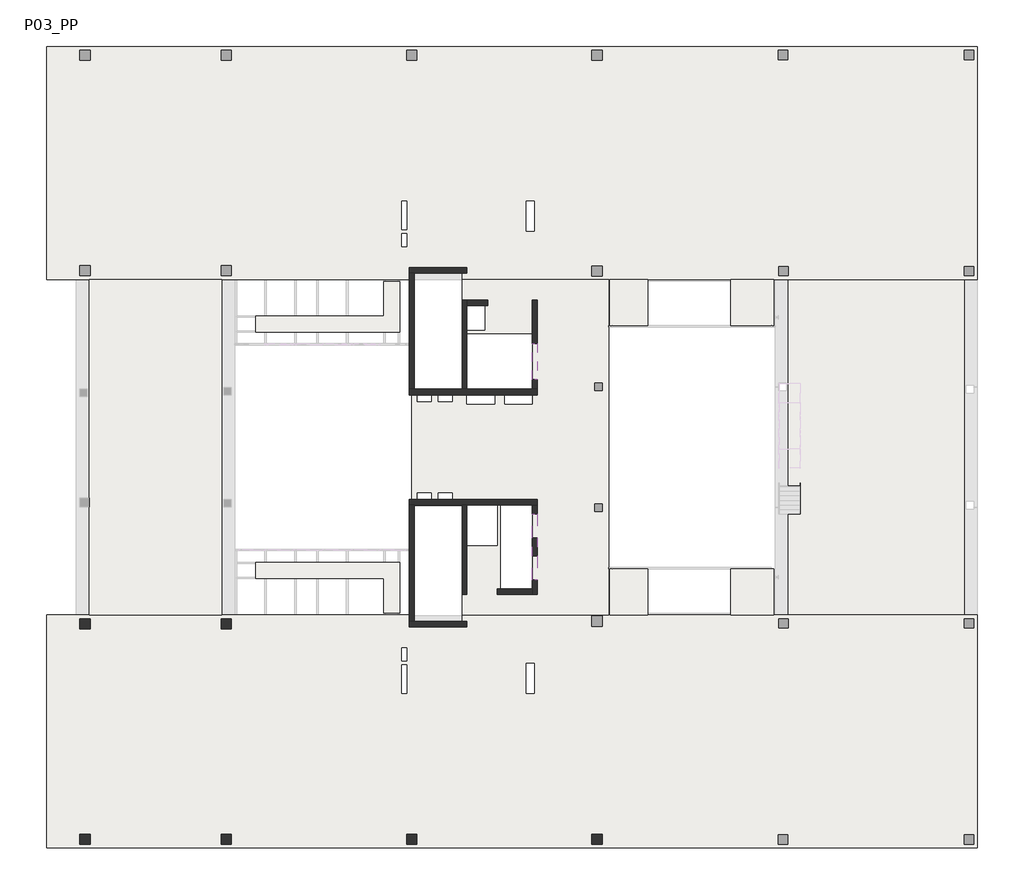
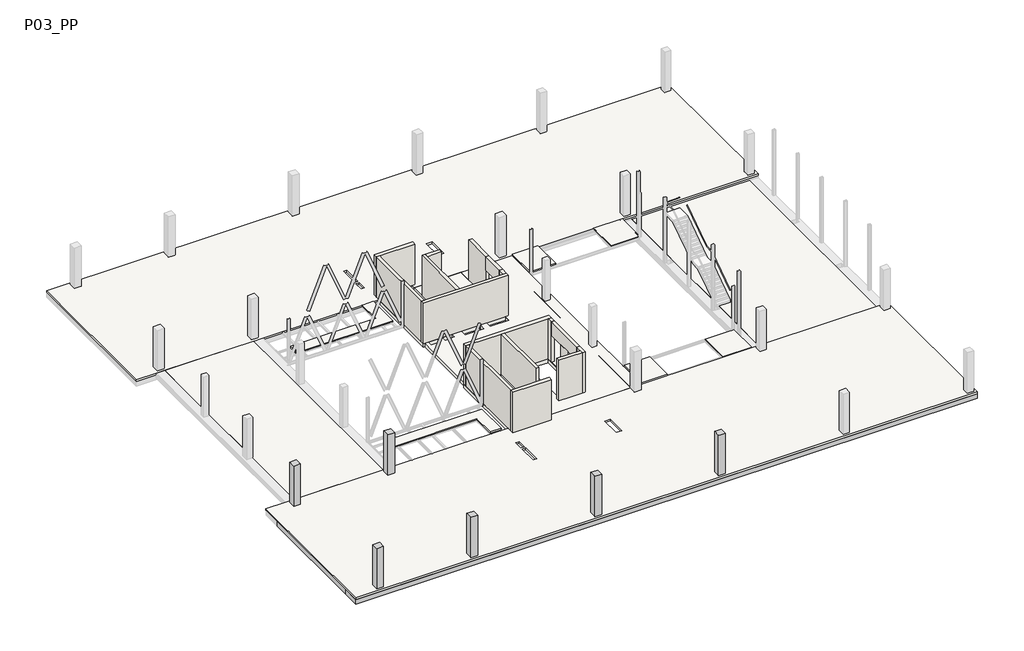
# One storey, part 1 of 4: 17 walls, 12 beams, 9 slabs, 6 columns.
"""IFC4 building model written with IfcOpenShell, lengths in millimetres."""

from ifc_helpers import new_model, si_unit, frame, origin, place, context, project, spatial, polyline, outline, extrude, faceted_brep, element, save

model = new_model("IFC4")

# Units and contexts
model_context = context("Model", 3, world=origin())
ifc_project = project(units=[si_unit("LENGTHUNIT", "METRE", prefix="MILLI")], contexts=[model_context])

# Site, building, storey
site = spatial("IfcSite", under=ifc_project)
building = spatial("IfcBuilding", under=site)
storey = spatial("IfcBuildingStorey", under=building, Name="P03_PP", Elevation=18660.0)

# Beams
placement = place(None, origin())
element("IfcBeam", 1, ObjectType="M_Concrete-Rectangular Beam : 1500 x 550mm", at=placement, inside=storey, context=model_context, shape_type="Brep", body=[
    faceted_brep([(-33190.2931093, -17110.5871866, 18110.0), (16958.7687297, -17110.5871866, 18110.0), (16958.7687297, -17110.5871866, 18510.0), (-33190.2931093, -17110.5871866, 18510.0), (16958.7687297, -15610.5871866, 18110.0), (-33190.2931093, -15610.5871866, 18110.0), (-32490.2931093, -15610.5871866, 18110.0), (-31216.2708024, -15610.5871866, 18110.0), (-30816.2708024, -15610.5871866, 18110.0), (-29549.6041367, -15610.5871866, 18110.0), (-29149.6041367, -15610.5871866, 18110.0), (-27882.9374731, -15610.5871866, 18110.0), (-27482.9374731, -15610.5871866, 18110.0), (-26216.2708089, -15610.5871866, 18110.0), (-25816.2708089, -15610.5871866, 18110.0), (-24549.6041453, -15610.5871866, 18110.0), (-24149.6041453, -15610.5871866, 18110.0), (-22882.9374805, -15610.5871866, 18110.0), (-22482.9374805, -15610.5871866, 18110.0), (-21216.2708168, -15610.5871866, 18110.0), (-20816.2708168, -15610.5871866, 18110.0), (-19549.6041539, -15610.5871866, 18110.0), (-19149.6041539, -15610.5871866, 18110.0), (-17882.9374898, -15610.5871866, 18110.0), (-17482.9374898, -15610.5871866, 18110.0), (-16216.2708252, -15610.5871866, 18110.0), (-15816.2708252, -15610.5871866, 18110.0), (-14549.604161, -15610.5871866, 18110.0), (-14149.604161, -15610.5871866, 18110.0), (-12882.9374977, -15610.5871866, 18110.0), (-12482.9374977, -15610.5871866, 18110.0), (-11216.2708336, -15610.5871866, 18110.0), (-10816.2708336, -15610.5871866, 18110.0), (-9549.6041702, -15610.5871866, 18110.0), (-9149.6041702, -15610.5871866, 18110.0), (-7882.9375051, -15610.5871866, 18110.0), (-7482.9375051, -15610.5871866, 18110.0), (-6216.2708415, -15610.5871866, 18110.0), (-5816.2708415, -15610.5871866, 18110.0), (-4549.6041777, -15610.5871866, 18110.0), (-4149.6041777, -15610.5871866, 18110.0), (-2882.9375136, -15610.5871866, 18110.0), (-2482.9375136, -15610.5871866, 18110.0), (-1216.2708502, -15610.5871866, 18110.0), (-816.2708502, -15610.5871866, 18110.0), (450.3958139, -15610.5871866, 18110.0), (850.3958139, -15610.5871866, 18110.0), (2117.0624776, -15610.5871866, 18110.0), (2517.0624776, -15610.5871866, 18110.0), (3783.7291418, -15610.5871866, 18110.0), (4183.7291418, -15610.5871866, 18110.0), (5450.3958055, -15610.5871866, 18110.0), (5850.3958055, -15610.5871866, 18110.0), (7117.0624701, -15610.5871866, 18110.0), (7517.0624701, -15610.5871866, 18110.0), (8783.7291339, -15610.5871866, 18110.0), (9183.7291339, -15610.5871866, 18110.0), (10450.3957976, -15610.5871866, 18110.0), (10850.3957976, -15610.5871866, 18110.0), (12117.0624618, -15610.5871866, 18110.0), (12517.0624618, -15610.5871866, 18110.0), (13783.7291255, -15610.5871866, 18110.0), (14183.7291255, -15610.5871866, 18110.0), (15458.7687297, -15610.5871866, 18110.0), (6734.6784228, -16910.586328, 18110.0), (6734.6784217, -16410.586328, 18110.0), (6234.6784217, -16410.5863291, 18110.0), (6234.6784228, -16910.5863291, 18110.0), (-3266.6336782, -16910.5863398, 18110.0), (-3266.6336781, -16360.5863398, 18110.0), (-3816.6336781, -16360.5863397, 18110.0), (-3816.6336782, -16910.5863397, 18110.0), (-13216.1844603, -16910.5866726, 18110.0), (-13216.1844595, -16310.5866726, 18110.0), (-13816.1844595, -16310.5866718, 18110.0), (-13816.1844603, -16910.5866718, 18110.0), (-23240.1750541, -16910.5860682, 18110.0), (-23240.175054, -16360.5860682, 18110.0), (-23790.175054, -16360.5860681, 18110.0), (-23790.1750541, -16910.5860681, 18110.0), (-30841.1764478, -16910.5868854, 18110.0), (-30841.1764478, -16360.5868854, 18110.0), (-31391.1764478, -16360.5868854, 18110.0), (-31391.1764478, -16910.5868854, 18110.0), (16758.7685931, -16910.5863174, 18110.0), (16758.7685932, -16410.5863174, 18110.0), (16258.7685932, -16410.5863173, 18110.0), (16258.7685931, -16910.5863173, 18110.0), (-33190.2931093, -15610.5871866, 18510.0), (-32490.2931093, -15610.5871866, 18510.0), (-31216.2708024, -15610.5871866, 18510.0), (-30816.2708024, -15610.5871866, 18510.0), (-29549.6041367, -15610.5871866, 18510.0), (-29149.6041367, -15610.5871866, 18510.0), (-27882.9374731, -15610.5871866, 18510.0), (-27482.9374731, -15610.5871866, 18510.0), (-26216.2708089, -15610.5871866, 18510.0), (-25816.2708089, -15610.5871866, 18510.0), (-24549.6041453, -15610.5871866, 18510.0), (-24149.6041453, -15610.5871866, 18510.0), (-22882.9374805, -15610.5871866, 18510.0), (-22482.9374805, -15610.5871866, 18510.0), (-21216.2708168, -15610.5871866, 18510.0), (-20816.2708168, -15610.5871866, 18510.0), (-19549.6041539, -15610.5871866, 18510.0), (-19149.6041539, -15610.5871866, 18510.0), (-17882.9374898, -15610.5871866, 18510.0), (-17482.9374898, -15610.5871866, 18510.0), (-16216.2708252, -15610.5871866, 18510.0), (-15816.2708252, -15610.5871866, 18510.0), (-14549.604161, -15610.5871866, 18510.0), (-14149.604161, -15610.5871866, 18510.0), (-12882.9374977, -15610.5871866, 18510.0), (-12482.9374977, -15610.5871866, 18510.0), (-11216.2708336, -15610.5871866, 18510.0), (-10816.2708336, -15610.5871866, 18510.0), (-9549.6041702, -15610.5871866, 18510.0), (-9149.6041702, -15610.5871866, 18510.0), (-7882.9375051, -15610.5871866, 18510.0), (-7482.9375051, -15610.5871866, 18510.0), (-6216.2708415, -15610.5871866, 18510.0), (-5816.2708415, -15610.5871866, 18510.0), (-4549.6041777, -15610.5871866, 18510.0), (-4149.6041777, -15610.5871866, 18510.0), (-2882.9375136, -15610.5871866, 18510.0), (-2482.9375136, -15610.5871866, 18510.0), (-1216.2708502, -15610.5871866, 18510.0), (-816.2708502, -15610.5871866, 18510.0), (450.3958139, -15610.5871866, 18510.0), (850.3958139, -15610.5871866, 18510.0), (2117.0624776, -15610.5871866, 18510.0), (2517.0624776, -15610.5871866, 18510.0), (3783.7291418, -15610.5871866, 18510.0), (4183.7291418, -15610.5871866, 18510.0), (5450.3958055, -15610.5871866, 18510.0), (5850.3958055, -15610.5871866, 18510.0), (7117.0624701, -15610.5871866, 18510.0), (7517.0624701, -15610.5871866, 18510.0), (8783.7291339, -15610.5871866, 18510.0), (9183.7291339, -15610.5871866, 18510.0), (10450.3957976, -15610.5871866, 18510.0), (10850.3957976, -15610.5871866, 18510.0), (12117.0624618, -15610.5871866, 18510.0), (12517.0624618, -15610.5871866, 18510.0), (13783.7291255, -15610.5871866, 18510.0), (14183.7291255, -15610.5871866, 18510.0), (15458.7687297, -15610.5871866, 18510.0), (16958.7687297, -15610.5871866, 18510.0), (6734.6784228, -16910.586328, 18360.0), (6734.6784217, -16410.586328, 18360.0), (6234.6784228, -16910.5863291, 18360.0), (6234.6784217, -16410.5863291, 18360.0), (-3266.6336782, -16910.5863398, 18360.0), (-3266.6336781, -16360.5863398, 18360.0), (-3816.6336782, -16910.5863397, 18360.0), (-3816.6336781, -16360.5863397, 18360.0), (-13216.1844603, -16910.5866726, 18360.0), (-13216.1844595, -16310.5866726, 18360.0), (-13816.1844603, -16910.5866718, 18360.0), (-13816.1844595, -16310.5866718, 18360.0), (-23240.1750541, -16910.5860682, 18360.0), (-23240.175054, -16360.5860682, 18360.0), (-23790.1750541, -16910.5860681, 18360.0), (-23790.175054, -16360.5860681, 18360.0), (-30841.1764478, -16910.5868854, 18360.0), (-30841.1764478, -16360.5868854, 18360.0), (-31391.1764478, -16910.5868854, 18360.0), (-31391.1764478, -16360.5868854, 18360.0), (16758.7685931, -16910.5863174, 18360.0), (16758.7685932, -16410.5863174, 18360.0), (16258.7685931, -16910.5863173, 18360.0), (16258.7685932, -16410.5863173, 18360.0)], [[[0, 1, 2, 3]], [[4, 1, 0, 5, 6, 7, 8, 9, 10, 11, 12, 13, 14, 15, 16, 17, 18, 19, 20, 21, 22, 23, 24, 25, 26, 27, 28, 29, 30, 31, 32, 33, 34, 35, 36, 37, 38, 39, 40, 41, 42, 43, 44, 45, 46, 47, 48, 49, 50, 51, 52, 53, 54, 55, 56, 57, 58, 59, 60, 61, 62, 63], [64, 65, 66, 67], [68, 69, 70, 71], [72, 73, 74, 75], [76, 77, 78, 79], [80, 81, 82, 83], [84, 85, 86, 87]], [[4, 63, 62, 61, 60, 59, 58, 57, 56, 55, 54, 53, 52, 51, 50, 49, 48, 47, 46, 45, 44, 43, 42, 41, 40, 39, 38, 37, 36, 35, 34, 33, 32, 31, 30, 29, 28, 27, 26, 25, 24, 23, 22, 21, 20, 19, 18, 17, 16, 15, 14, 13, 12, 11, 10, 9, 8, 7, 6, 5, 88, 89, 90, 91, 92, 93, 94, 95, 96, 97, 98, 99, 100, 101, 102, 103, 104, 105, 106, 107, 108, 109, 110, 111, 112, 113, 114, 115, 116, 117, 118, 119, 120, 121, 122, 123, 124, 125, 126, 127, 128, 129, 130, 131, 132, 133, 134, 135, 136, 137, 138, 139, 140, 141, 142, 143, 144, 145, 146, 147]], [[1, 4, 147, 2]], [[148, 149, 65, 64]], [[150, 148, 64, 67]], [[151, 150, 67, 66]], [[149, 151, 66, 65]], [[149, 148, 150, 151]], [[152, 153, 69, 68]], [[154, 152, 68, 71]], [[155, 154, 71, 70]], [[153, 155, 70, 69]], [[153, 152, 154, 155]], [[156, 157, 73, 72]], [[158, 156, 72, 75]], [[159, 158, 75, 74]], [[157, 159, 74, 73]], [[157, 156, 158, 159]], [[160, 161, 77, 76]], [[162, 160, 76, 79]], [[163, 162, 79, 78]], [[161, 163, 78, 77]], [[161, 160, 162, 163]], [[164, 165, 81, 80]], [[166, 164, 80, 83]], [[167, 166, 83, 82]], [[165, 167, 82, 81]], [[165, 164, 166, 167]], [[168, 169, 85, 84]], [[170, 168, 84, 87]], [[171, 170, 87, 86]], [[169, 171, 86, 85]], [[169, 168, 170, 171]], [[5, 0, 3, 88]], [[3, 2, 147, 146, 145, 144, 143, 142, 141, 140, 139, 138, 137, 136, 135, 134, 133, 132, 131, 130, 129, 128, 127, 126, 125, 124, 123, 122, 121, 120, 119, 118, 117, 116, 115, 114, 113, 112, 111, 110, 109, 108, 107, 106, 105, 104, 103, 102, 101, 100, 99, 98, 97, 96, 95, 94, 93, 92, 91, 90, 89, 88]]]),
])
element("IfcBeam", 2, ObjectType="M_Concrete-Rectangular Beam : 400 x 550mm", at=placement, inside=storey, context=model_context, shape_type="SweptSolid", body=[
    extrude(outline(polyline([(-30816.2708024, -15610.5871866), (-31216.2708024, -15610.5871866), (-31216.2708024, -6110.5861498), (-30816.2708024, -6110.5861498), (-30816.2708024, -15610.5871866)])), frame((0.0, 0.0, 18110.0), z_axis=(0.0, 0.0, 1.0), x_axis=(1.0, 0.0, 0.0)), (0.0, 0.0, 1.0), 400.0),
])
element("IfcBeam", 3, ObjectType="M_Concrete-Rectangular Beam : 400 x 550mm", at=placement, inside=storey, context=model_context, shape_type="SweptSolid", body=[
    extrude(outline(polyline([(-29149.6041367, -15610.5871866), (-29549.6041367, -15610.5871866), (-29549.6041367, -6110.5861498), (-29149.6041367, -6110.5861498), (-29149.6041367, -15610.5871866)])), frame((0.0, 0.0, 18110.0), z_axis=(0.0, 0.0, 1.0), x_axis=(1.0, 0.0, 0.0)), (0.0, 0.0, 1.0), 400.0),
])
element("IfcBeam", 4, ObjectType="M_Concrete-Rectangular Beam : 400 x 550mm", at=placement, inside=storey, context=model_context, shape_type="SweptSolid", body=[
    extrude(outline(polyline([(-27482.9374731, -15610.5871866), (-27882.9374731, -15610.5871866), (-27882.9374731, -6110.5861498), (-27482.9374731, -6110.5861498), (-27482.9374731, -15610.5871866)])), frame((0.0, 0.0, 18110.0), z_axis=(0.0, 0.0, 1.0), x_axis=(1.0, 0.0, 0.0)), (0.0, 0.0, 1.0), 400.0),
])
element("IfcBeam", 5, ObjectType="M_Concrete-Rectangular Beam : 400 x 550mm", at=placement, inside=storey, context=model_context, shape_type="SweptSolid", body=[
    extrude(outline(polyline([(-25816.2708089, -15610.5871866), (-26216.2708089, -15610.5871866), (-26216.2708089, -6110.5861498), (-25816.2708089, -6110.5861498), (-25816.2708089, -15610.5871866)])), frame((0.0, 0.0, 18110.0), z_axis=(0.0, 0.0, 1.0), x_axis=(1.0, 0.0, 0.0)), (0.0, 0.0, 1.0), 400.0),
])
element("IfcBeam", 6, ObjectType="M_Concrete-Rectangular Beam : 400 x 550mm", at=placement, inside=storey, context=model_context, shape_type="SweptSolid", body=[
    extrude(outline(polyline([(-24149.6041453, -15610.5871866), (-24549.6041453, -15610.5871866), (-24549.6041453, -6110.5861498), (-24149.6041453, -6110.5861498), (-24149.6041453, -15610.5871866)])), frame((0.0, 0.0, 18110.0), z_axis=(0.0, 0.0, 1.0), x_axis=(1.0, 0.0, 0.0)), (0.0, 0.0, 1.0), 400.0),
])
element("IfcBeam", 7, ObjectType="M_Concrete-Rectangular Beam : 400 x 550mm", at=placement, inside=storey, context=model_context, shape_type="SweptSolid", body=[
    extrude(outline(polyline([(-22482.9374805, -15610.5871866), (-22882.9374805, -15610.5871866), (-22882.9374805, -6110.5861498), (-22482.9374805, -6110.5861498), (-22482.9374805, -15610.5871866)])), frame((0.0, 0.0, 18110.0), z_axis=(0.0, 0.0, 1.0), x_axis=(1.0, 0.0, 0.0)), (0.0, 0.0, 1.0), 400.0),
])
element("IfcBeam", 8, ObjectType="M_Concrete-Rectangular Beam : 400 x 550mm", at=placement, inside=storey, context=model_context, shape_type="SweptSolid", body=[
    extrude(outline(polyline([(-20816.2708168, -15610.5871866), (-21216.2708168, -15610.5871866), (-21216.2708168, -6110.5861498), (-20816.2708168, -6110.5861498), (-20816.2708168, -15610.5871866)])), frame((0.0, 0.0, 18110.0), z_axis=(0.0, 0.0, 1.0), x_axis=(1.0, 0.0, 0.0)), (0.0, 0.0, 1.0), 400.0),
])
element("IfcBeam", 9, ObjectType="M_Concrete-Rectangular Beam : 400 x 550mm", at=placement, inside=storey, context=model_context, shape_type="SweptSolid", body=[
    extrude(outline(polyline([(-19149.6041539, -15610.5871866), (-19549.6041539, -15610.5871866), (-19549.6041539, -6110.5861498), (-19149.6041539, -6110.5861498), (-19149.6041539, -15610.5871866)])), frame((0.0, 0.0, 18110.0), z_axis=(0.0, 0.0, 1.0), x_axis=(1.0, 0.0, 0.0)), (0.0, 0.0, 1.0), 400.0),
])
element("IfcBeam", 10, ObjectType="M_Concrete-Rectangular Beam : 400 x 550mm", at=placement, inside=storey, context=model_context, shape_type="SweptSolid", body=[
    extrude(outline(polyline([(-17482.9374898, -15610.5871866), (-17882.9374898, -15610.5871866), (-17882.9374898, -6110.5861498), (-17482.9374898, -6110.5861498), (-17482.9374898, -15610.5871866)])), frame((0.0, 0.0, 18110.0), z_axis=(0.0, 0.0, 1.0), x_axis=(1.0, 0.0, 0.0)), (0.0, 0.0, 1.0), 400.0),
])
element("IfcBeam", 11, ObjectType="M_Concrete-Rectangular Beam : 400 x 550mm", at=placement, inside=storey, context=model_context, shape_type="SweptSolid", body=[
    extrude(outline(polyline([(-15816.2708252, -15610.5871866), (-16216.2708252, -15610.5871866), (-16216.2708252, -6110.5861498), (-15816.2708252, -6110.5861498), (-15816.2708252, -15610.5871866)])), frame((0.0, 0.0, 18110.0), z_axis=(0.0, 0.0, 1.0), x_axis=(1.0, 0.0, 0.0)), (0.0, 0.0, 1.0), 400.0),
])
element("IfcBeam", 12, ObjectType="M_Concrete-Rectangular Beam : 700 x 550mm", at=placement, inside=storey, context=model_context, shape_type="SweptSolid", body=[
    extrude(outline(polyline([(-32490.2931093, -15610.5871866), (-33190.2931093, -15610.5871866), (-33190.2931093, -6110.5861498), (-32490.2931093, -6110.5861498), (-32490.2931093, -15610.5871866)])), frame((0.0, 0.0, 18110.0), z_axis=(0.0, 0.0, 1.0), x_axis=(1.0, 0.0, 0.0)), (0.0, 0.0, 1.0), 400.0),
])

# Columns
element("IfcColumn", 13, ObjectType="Concrete-Rectangular-Column : Pilar_Rectangular-Formigo-550x550", at=placement, inside=storey, context=model_context, shape_type="Brep", body=[
    faceted_brep([(-3266.6336781, -16360.5863398, 18660.0), (-3266.6336782, -16910.5863398, 18660.0), (-3816.6336782, -16910.5863397, 18660.0), (-3816.6336781, -16360.5863397, 18660.0), (-3266.6336781, -16360.5863398, 22110.0), (-3266.6336782, -16910.5863398, 22110.0), (-3266.6336782, -16910.5863398, 21710.0), (-3266.6336782, -16910.5863398, 21610.0), (-3266.6336781, -16360.5863398, 21710.0), (-3763.6636999, -16910.5863397, 22110.0), (-3816.6336782, -16910.5863397, 22110.0), (-3816.6336782, -16910.5863397, 21610.0), (-3816.6336781, -16360.5863397, 22110.0), (-3816.6336781, -16360.5863397, 21860.0), (-3763.6636999, -16360.5863397, 22110.0)], [[[0, 1, 2, 3]], [[4, 5, 6, 7, 1, 0, 8]], [[5, 9, 10, 11, 2, 1, 7, 6]], [[10, 12, 13, 3, 2, 11]], [[12, 14, 4, 8, 0, 3, 13]], [[4, 14, 12, 10, 9, 5]]]),
])
element("IfcColumn", 14, ObjectType="Concrete-Rectangular-Column : Pilar_Rectangular-Formigo-550x550", at=placement, inside=storey, context=model_context, shape_type="Brep", body=[
    faceted_brep([(-13241.1844605, -16360.5878685, 18660.0), (-13241.1844603, -16910.5878685, 18660.0), (-13791.1844603, -16910.5878687, 18660.0), (-13791.1844605, -16360.5878687, 18660.0), (-13241.1844605, -16360.5878685, 22110.0), (-13241.1844603, -16910.5878685, 22110.0), (-13241.1844603, -16910.5878685, 21860.0), (-13241.1844605, -16360.5878685, 21860.0), (-13791.1844603, -16910.5878687, 22110.0), (-13791.1844603, -16910.5878687, 21860.0), (-13791.1844605, -16360.5878687, 22110.0), (-13791.1844605, -16360.5878687, 21860.0)], [[[0, 1, 2, 3]], [[4, 5, 6, 1, 0, 7]], [[5, 8, 9, 2, 1, 6]], [[8, 10, 11, 3, 2, 9]], [[10, 4, 7, 0, 3, 11]], [[4, 10, 8, 5]]]),
])
element("IfcColumn", 15, ObjectType="Concrete-Rectangular-Column : Pilar_Rectangular-Formigo-550x550", at=placement, inside=storey, context=model_context, shape_type="Brep", body=[
    faceted_brep([(-23240.175054, -16360.5860682, 18660.0), (-23240.1750541, -16910.5860682, 18660.0), (-23790.1750541, -16910.5860681, 18660.0), (-23790.175054, -16360.5860681, 18660.0), (-23240.175054, -16360.5860682, 22110.0), (-23240.1750541, -16910.5860682, 22110.0), (-23240.1750541, -16910.5860682, 21860.0), (-23240.175054, -16360.5860682, 21860.0), (-23790.1750541, -16910.5860681, 22110.0), (-23790.1750541, -16910.5860681, 21860.0), (-23790.175054, -16360.5860681, 22110.0), (-23790.175054, -16360.5860681, 21860.0)], [[[0, 1, 2, 3]], [[4, 5, 6, 1, 0, 7]], [[5, 8, 9, 2, 1, 6]], [[8, 10, 11, 3, 2, 9]], [[10, 4, 7, 0, 3, 11]], [[4, 10, 8, 5]]]),
])
element("IfcColumn", 16, ObjectType="Concrete-Rectangular-Column : Pilar_Rectangular-Formigo-550x550", at=placement, inside=storey, context=model_context, shape_type="Brep", body=[
    faceted_brep([(-23241.1836357, -4760.5863897, 18660.0), (-23241.1836358, -5310.5863897, 18660.0), (-23791.1836358, -5310.5863896, 18660.0), (-23791.1836357, -4760.5863896, 18660.0), (-23241.1836357, -4760.5863897, 22110.0), (-23241.1836358, -5310.5863897, 22110.0), (-23241.1836358, -5310.5863897, 21860.0), (-23241.1836357, -4760.5863897, 21860.0), (-23791.1836358, -5310.5863896, 22110.0), (-23791.1836358, -5310.5863896, 21860.0), (-23791.1836357, -4760.5863896, 22110.0), (-23791.1836357, -4760.5863896, 21860.0)], [[[0, 1, 2, 3]], [[4, 5, 6, 1, 0, 7]], [[5, 8, 9, 2, 1, 6]], [[8, 10, 11, 3, 2, 9]], [[10, 4, 7, 0, 3, 11]], [[4, 10, 8, 5]]]),
])
element("IfcColumn", 17, ObjectType="Concrete-Rectangular-Column : Pilar_Rectangular-Formigo-550x550", at=placement, inside=storey, context=model_context, shape_type="Brep", body=[
    faceted_brep([(-30841.1764478, -16360.5868854, 18660.0), (-30841.1764478, -16910.5868854, 18660.0), (-31391.1764478, -16910.5868854, 18660.0), (-31391.1764478, -16360.5868854, 18660.0), (-30841.1764478, -16360.5868854, 22110.0), (-30841.1764478, -16910.5868854, 22110.0), (-30841.1764478, -16910.5868854, 21860.0), (-30841.1764478, -16360.5868854, 21860.0), (-31391.1764478, -16910.5868854, 22110.0), (-31391.1764478, -16910.5868854, 21860.0), (-31391.1764478, -16360.5868854, 22110.0), (-31391.1764478, -16360.5868854, 21860.0)], [[[0, 1, 2, 3]], [[4, 5, 6, 1, 0, 7]], [[5, 8, 9, 2, 1, 6]], [[8, 10, 11, 3, 2, 9]], [[10, 4, 7, 0, 3, 11]], [[4, 10, 8, 5]]]),
])
element("IfcColumn", 18, ObjectType="Concrete-Rectangular-Column : Pilar_Rectangular-Formigo-550x550", at=placement, inside=storey, context=model_context, shape_type="Brep", body=[
    faceted_brep([(-30841.2256052, -4760.5863916, 18660.0), (-30841.2256035, -5310.5863916, 18660.0), (-31391.2256035, -5310.5863933, 18660.0), (-31391.2256052, -4760.5863933, 18660.0), (-30841.2256052, -4760.5863916, 22110.0), (-30841.2256035, -5310.5863916, 22110.0), (-30841.2256035, -5310.5863916, 21860.0), (-30841.2256052, -4760.5863916, 21860.0), (-31391.2256035, -5310.5863933, 22110.0), (-31391.2256035, -5310.5863933, 21860.0), (-31391.2256052, -4760.5863933, 22110.0), (-31391.2256052, -4760.5863933, 21860.0)], [[[0, 1, 2, 3]], [[4, 5, 6, 1, 0, 7]], [[5, 8, 9, 2, 1, 6]], [[8, 10, 11, 3, 2, 9]], [[10, 4, 7, 0, 3, 11]], [[4, 10, 8, 5]]]),
])

# Slabs
element("IfcSlab", 19, ObjectType="Forjat_Llosa-Formigo-400", at=placement, inside=storey, context=model_context, shape_type="SweptSolid", body=[
    extrude(outline(polyline([(16258.7655227, 13539.4134388), (16258.7655227, -4560.5861502), (6758.8276474, -4560.5861502), (6758.8276474, 13539.4134388), (16258.7655227, 13539.4134388)])), frame((0.0, 0.0, 17960.0), z_axis=(0.0, 0.0, 1.0), x_axis=(1.0, 0.0, 0.0)), (0.0, 0.0, 1.0), 400.0),
])
element("IfcSlab", 20, ObjectType="Forjat_Llosa-Formigo-300", at=placement, inside=storey, context=model_context, shape_type="SweptSolid", body=[
    extrude(outline(polyline([(-23741.1819185, -4560.5873619), (-30891.2267893, -4560.5873659), (-30891.2267996, 13539.4122318), (-23741.1819284, 13539.4122359), (-23741.1819185, -4560.5873619)])), frame((0.0, 0.0, 18360.0), z_axis=(0.0, 0.0, 1.0), x_axis=(1.0, 0.0, 0.0)), (0.0, 0.0, 1.0), 300.0),
    extrude(outline(polyline([(-13640.3216401, 7314.8960673), (-13640.3216435, 13539.4122484), (-13390.3216429, 13539.4122485), (-13390.3216429, 7614.8960673), (-10790.2146087, 7614.8960673), (-10790.2146087, 13539.4122499), (-2913.634315, 13539.4122542), (-2913.6343046, -4560.5873347), (-10790.2146087, -4560.5873432), (-10790.2146087, 1364.8960692), (-13390.3216429, 1364.8960692), (-13390.3216429, -4560.587346), (-13640.3216336, -4560.5873463), (-13640.321637, 1664.8960692), (-13515.3216429, 1664.8960692), (-13515.3216429, 7314.8960673), (-13640.3216401, 7314.8960673)]), holes=[polyline([(-8915.3273673, -795.1004405), (-8915.3273673, 1364.8960692), (-10540.2146087, 1364.8960692), (-10540.2146087, -795.1004405), (-8915.3273673, -795.1004405)]), polyline([(-7015.32737, -3135.1012912), (-7015.32737, 1364.8960692), (-8715.3273692, 1364.8960692), (-8715.3273692, -3135.1012912), (-7015.32737, -3135.1012912)]), polyline([(-7015.3216444, 10594.8839421), (-10540.2146087, 10594.8839421), (-10540.2146087, 7614.8960673), (-7015.3216444, 7614.8960673), (-7015.3216444, 10594.8839421)]), polyline([(-9575.3241515, 12114.8934277), (-10540.2146087, 12114.8934277), (-10540.2146087, 10794.8973525), (-9575.3241515, 10794.8973525), (-9575.3241515, 12114.8934277)]), polyline([(-12465.3183759, 6964.8891848), (-12465.3183704, 7314.8960673), (-13215.3183723, 7314.8960673), (-13215.3183768, 6964.8891841), (-12465.3183759, 6964.8891848)]), polyline([(-12090.3183694, 6964.8891882), (-11340.3183722, 6964.8891882), (-11340.3183685, 7314.8960673), (-12090.3183704, 7314.8960673), (-12090.3183694, 6964.8891882)]), polyline([(-12465.317339, 2014.8973051), (-13215.3183744, 2014.8973051), (-13215.3183744, 1664.8968204), (-12465.317339, 1664.8968204), (-12465.317339, 2014.8973051)]), polyline([(-11340.3173363, 2014.8973051), (-12090.3183821, 2014.8973051), (-12090.3183821, 1664.8968204), (-11340.3173363, 1664.8968204), (-11340.3173363, 2014.8973051)]), polyline([(-9040.3216312, 7314.8929869), (-10540.3361965, 7314.8929869), (-10540.3361965, 6814.888132), (-9040.3216312, 6814.888132), (-9040.3216312, 7314.8929869)]), polyline([(-7015.3241584, 7314.892988), (-8515.3387237, 7314.892988), (-8515.3387237, 6814.888133), (-7015.3241584, 6814.888133), (-7015.3241584, 7314.892988)])]), frame((0.0, 0.0, 18360.0), z_axis=(0.0, 0.0, 1.0), x_axis=(1.0, 0.0, 0.0)), (0.0, 0.0, 1.0), 300.0),
])
element("IfcSlab", 21, ObjectType="Forjat_Llosa-Formigo-150", at=placement, inside=storey, context=model_context, shape_type="Brep", body=[
    faceted_brep([(-33190.2931093, -17110.587189, 18510.0), (-33190.2931093, -15610.5871866, 18510.0), (-33190.2931093, -6110.5861498, 18510.0), (-33190.2931093, -4610.5861498, 18510.0), (-33190.2931093, -4560.5861796, 18510.0), (-31591.2267916, -4560.5861786, 18510.0), (-30891.2267916, -4560.5861782, 18510.0), (-23741.1819308, -4560.586174, 18510.0), (-23041.1819308, -4560.5861736, 18510.0), (-13390.3216429, -4560.5861678, 18510.0), (-13390.3216429, -4610.5861498, 18510.0), (-13390.3216429, -4885.1039312, 18510.0), (-10790.2146087, -4885.1039312, 18510.0), (-10790.2146087, -4610.5861498, 18510.0), (-10790.2146087, -4560.5861663, 18510.0), (-7015.3241677, -4560.586164, 18510.0), (-6715.3241677, -4560.5861639, 18510.0), (-3763.6343046, -4560.5861621, 18510.0), (-2913.6343046, -4560.5861616, 18510.0), (5850.3957984, -4560.5861564, 18510.0), (16958.7655213, -4560.5861498, 18510.0), (16958.7655213, -17110.587189, 18510.0), (-7355.3596943, -8775.7081757, 18510.0), (-6905.3202496, -8775.7081751, 18510.0), (-6905.3202486, -7164.135997, 18510.0), (-7355.3596935, -7164.1359972, 18510.0), (-13795.316559, -7035.8370988, 18510.0), (-13795.3165589, -6335.8371015, 18510.0), (-14045.3165545, -6335.8371012, 18510.0), (-14045.3165543, -7035.8370994, 18510.0), (-13795.3165592, -8774.2557811, 18510.0), (-13795.316559, -7235.8371005, 18510.0), (-14045.3165585, -7235.8371008, 18510.0), (-14045.3165588, -8774.2557822, 18510.0), (-33190.2931093, -4560.5861796, 18660.0), (-33190.2931093, -17110.587189, 18660.0), (16958.7655213, -17110.587189, 18660.0), (16958.7655213, -4560.5861498, 18660.0), (-2913.6343046, -4560.5861616, 18660.0), (-3763.6343046, -4560.5861621, 18660.0), (-6715.3241677, -4560.5861639, 18660.0), (-7015.3241677, -4560.586164, 18660.0), (-10790.2146087, -4560.5861663, 18660.0), (-10790.2146087, -4610.5861498, 18660.0), (-10790.2146087, -4885.1039312, 18660.0), (-13390.3216429, -4885.1039312, 18660.0), (-13390.3216429, -4610.5861498, 18660.0), (-13390.3216429, -4560.5861678, 18660.0), (-23041.1819308, -4560.5861736, 18660.0), (-23741.1819308, -4560.586174, 18660.0), (-30891.2267916, -4560.5861782, 18660.0), (-31591.2267916, -4560.5861786, 18660.0), (-6905.3202496, -8775.7081751, 18660.0), (-7355.3596943, -8775.7081757, 18660.0), (-7355.3596935, -7164.1359972, 18660.0), (-6905.3202486, -7164.135997, 18660.0), (-13795.3165589, -6335.8371015, 18660.0), (-13795.316559, -7035.8370988, 18660.0), (-14045.3165543, -7035.8370994, 18660.0), (-14045.3165545, -6335.8371012, 18660.0), (-13795.316559, -7235.8371005, 18660.0), (-13795.3165592, -8774.2557811, 18660.0), (-14045.3165588, -8774.2557822, 18660.0), (-14045.3165585, -7235.8371008, 18660.0)], [[[0, 1, 2, 3, 4, 5, 6, 7, 8, 9, 10, 11, 12, 13, 14, 15, 16, 17, 18, 19, 20, 21], [22, 23, 24, 25], [26, 27, 28, 29], [30, 31, 32, 33]], [[34, 35, 36, 37, 38, 39, 40, 41, 42, 43, 44, 45, 46, 47, 48, 49, 50, 51], [52, 53, 54, 55], [56, 57, 58, 59], [60, 61, 62, 63]], [[4, 3, 2, 1, 0, 35, 34]], [[21, 20, 37, 36]], [[0, 21, 36, 35]], [[4, 34, 51, 50, 49, 48, 47, 9, 8, 7, 6, 5]], [[37, 20, 19, 18, 17, 16, 15, 14, 42, 41, 40, 39, 38]], [[12, 44, 43, 42, 14, 13]], [[45, 11, 10, 9, 47, 46]], [[44, 12, 11, 45]], [[22, 53, 52, 23]], [[23, 52, 55, 24]], [[24, 55, 54, 25]], [[53, 22, 25, 54]], [[26, 57, 56, 27]], [[27, 56, 59, 28]], [[28, 59, 58, 29]], [[57, 26, 29, 58]], [[30, 61, 60, 31]], [[31, 60, 63, 32]], [[32, 63, 62, 33]], [[61, 30, 33, 62]]]),
    faceted_brep([(-33190.2931093, 13539.4134446, 18510.0), (-33190.2931093, 15039.4134441, 18510.0), (-33190.2931093, 24589.4144807, 18510.0), (-33190.2931093, 26089.4134445, 18510.0), (16958.7655213, 26089.4134445, 18510.0), (16958.7655213, 13539.4134371, 18510.0), (5450.3958055, 13539.4134389, 18510.0), (-10790.2146087, 13539.4134413, 18510.0), (-10790.2146087, 13864.8960677, 18510.0), (-13390.3216429, 13864.8960677, 18510.0), (-13390.3216429, 13539.4134417, 18510.0), (-7355.3596943, 17755.5003122, 18510.0), (-7355.3596935, 16143.9281337, 18510.0), (-6905.3202486, 16143.9281335, 18510.0), (-6905.3202496, 17755.5003116, 18510.0), (-13795.316559, 16015.6292353, 18510.0), (-14045.3165543, 16015.6292358, 18510.0), (-14045.3165545, 15315.6292377, 18510.0), (-13795.3165589, 15315.629238, 18510.0), (-13795.3165592, 17754.0479176, 18510.0), (-14045.3165588, 17754.0479187, 18510.0), (-14045.3165585, 16215.6292373, 18510.0), (-13795.316559, 16215.629237, 18510.0), (-33190.2931093, 26089.4134445, 18660.0), (-33190.2931093, 13539.4134446, 18660.0), (-31591.2267916, 13539.4134444, 18660.0), (-30891.2267916, 13539.4134443, 18660.0), (-23741.1819308, 13539.4134432, 18660.0), (-23041.1819308, 13539.4134431, 18660.0), (-13390.3216429, 13539.4134417, 18660.0), (-13390.3216429, 13864.8960677, 18660.0), (-10790.2146087, 13864.8960677, 18660.0), (-10790.2146087, 13539.4134413, 18660.0), (-7015.3241677, 13539.4134407, 18660.0), (-6715.3241677, 13539.4134407, 18660.0), (-3763.6343046, 13539.4134402, 18660.0), (-2913.6343046, 13539.4134401, 18660.0), (16958.7655213, 13539.4134371, 18660.0), (16958.7655213, 26089.4134445, 18660.0), (-7355.3596935, 16143.9281337, 18660.0), (-7355.3596943, 17755.5003122, 18660.0), (-6905.3202496, 17755.5003116, 18660.0), (-6905.3202486, 16143.9281335, 18660.0), (-14045.3165543, 16015.6292358, 18660.0), (-13795.316559, 16015.6292353, 18660.0), (-13795.3165589, 15315.629238, 18660.0), (-14045.3165545, 15315.6292377, 18660.0), (-14045.3165588, 17754.0479187, 18660.0), (-13795.3165592, 17754.0479176, 18660.0), (-13795.316559, 16215.629237, 18660.0), (-14045.3165585, 16215.6292373, 18660.0)], [[[0, 1, 2, 3, 4, 5, 6, 7, 8, 9, 10], [11, 12, 13, 14], [15, 16, 17, 18], [19, 20, 21, 22]], [[23, 24, 25, 26, 27, 28, 29, 30, 31, 32, 33, 34, 35, 36, 37, 38], [39, 40, 41, 42], [43, 44, 45, 46], [47, 48, 49, 50]], [[3, 2, 1, 0, 24, 23]], [[4, 3, 23, 38]], [[5, 37, 36, 35, 34, 33, 32, 7, 6]], [[24, 0, 10, 29, 28, 27, 26, 25]], [[5, 4, 38, 37]], [[8, 31, 30, 9]], [[9, 30, 29, 10]], [[31, 8, 7, 32]], [[11, 40, 39, 12]], [[12, 39, 42, 13]], [[13, 42, 41, 14]], [[40, 11, 14, 41]], [[15, 44, 43, 16]], [[16, 43, 46, 17]], [[17, 46, 45, 18]], [[44, 15, 18, 45]], [[19, 48, 47, 20]], [[20, 47, 50, 21]], [[21, 50, 49, 22]], [[48, 19, 22, 49]]]),
])
element("IfcSlab", 22, ObjectType="Forjat_Llosa-Relliga-100", at=placement, inside=storey, context=model_context, shape_type="SweptSolid", body=[
    extrude(outline(polyline([(-21915.4459309, -2583.0874625), (-21915.4459314, -1728.0871839), (-14149.4459331, -1728.0871839), (-14149.4459331, -4439.621344), (-15031.4459326, -4439.621344), (-15031.4459326, -2583.0874625), (-21915.4459309, -2583.0874625)])), frame((0.0, 0.0, 18660.0), z_axis=(0.0, 0.0, 1.0), x_axis=(1.0, 0.0, 0.0)), (0.0, 0.0, 1.0), 100.0),
])
element("IfcSlab", 23, ObjectType="Forjat_Llosa-Relliga-100", at=placement, inside=storey, context=model_context, shape_type="SweptSolid", body=[
    extrude(outline(polyline([(-21915.4459309, 11562.8793206), (-15031.4459326, 11562.8793206), (-15031.4459326, 13419.4132021), (-14149.4459331, 13419.4132021), (-14149.4459331, 10707.879042), (-21915.4459314, 10707.879042), (-21915.4459309, 11562.8793206)])), frame((0.0, 0.0, 18660.0), z_axis=(0.0, 0.0, 1.0), x_axis=(1.0, 0.0, 0.0)), (0.0, 0.0, 1.0), 100.0),
])
element("IfcSlab", 24, ObjectType="Forjat_Llosa-Xapa-100", at=placement, inside=storey, context=model_context, shape_type="SweptSolid", body=[
    extrude(outline(polyline([(-801.4958562, 11054.6241436), (-2861.4958562, 11054.6242078), (-2861.4958562, 13539.4134402), (-801.4958562, 13539.4134399), (-801.4958562, 11054.6241436)])), frame((0.0, 0.0, 18660.0), z_axis=(0.0, 0.0, 1.0), x_axis=(1.0, 0.0, 0.0)), (0.0, 0.0, 1.0), 100.0),
])
element("IfcSlab", 25, ObjectType="Forjat_Llosa-Relliga-30", at=placement, inside=storey, context=model_context, shape_type="SweptSolid", body=[
    extrude(outline(polyline([(5988.4982336, 13539.4134389), (5988.4982342, 11054.6239319), (3664.2873994, 11054.6240044), (3664.2873994, 13539.4134392), (5988.4982336, 13539.4134389)])), frame((0.0, 0.0, 18660.0), z_axis=(0.0, 0.0, 1.0), x_axis=(1.0, 0.0, 0.0)), (0.0, 0.0, 1.0), 30.0),
])
element("IfcSlab", 26, ObjectType="Forjat_Llosa-Xapa-100", at=placement, inside=storey, context=model_context, shape_type="SweptSolid", body=[
    extrude(outline(polyline([(-801.4958562, -2074.8320071), (-801.4958562, -4559.6213034), (-2861.4958562, -4559.6213037), (-2861.4958562, -2074.8320713), (-801.4958562, -2074.8320071)])), frame((0.0, 0.0, 18660.0), z_axis=(0.0, 0.0, 1.0), x_axis=(1.0, 0.0, 0.0)), (0.0, 0.0, 1.0), 100.0),
])
element("IfcSlab", 27, ObjectType="Forjat_Llosa-Relliga-30", at=placement, inside=storey, context=model_context, shape_type="SweptSolid", body=[
    extrude(outline(polyline([(5988.4982336, -4559.6213024), (3664.2873994, -4559.6213028), (3664.2873994, -2074.8318679), (5988.4982342, -2074.8317954), (5988.4982336, -4559.6213024)])), frame((0.0, 0.0, 18660.0), z_axis=(0.0, 0.0, 1.0), x_axis=(1.0, 0.0, 0.0)), (0.0, 0.0, 1.0), 30.0),
])

# Walls
element("IfcWall", 28, ObjectType="0_Muro Concreto_250", at=placement, inside=storey, context=model_context, shape_type="Brep", body=[
    faceted_brep([(-13640.3216429, 13864.8960687, 18660.0), (-13640.3216429, 7614.8960673, 18660.0), (-13640.3216429, 7614.8960673, 22110.0542339), (-13640.3216429, 13539.4134441, 22110.0542339), (-13640.3216429, 13864.8960687, 22110.0542339), (-13390.3216429, 13864.8960687, 18660.0), (-13390.3216429, 13864.8960687, 21860.0), (-13390.3216429, 13864.8960687, 22110.0542339), (-13390.3216429, 13539.4134441, 22110.0542339), (-13390.3216429, 7614.8960673, 22110.0542339), (-13390.3216429, 7614.8960673, 18660.0)], [[[0, 1, 2, 3, 4]], [[5, 6, 7, 8, 9, 10]], [[1, 0, 5, 10]], [[4, 3, 2, 9, 8, 7]], [[0, 4, 7, 6, 5]], [[2, 1, 10, 9]]]),
])
element("IfcWall", 29, ObjectType="0_Muro Concreto_250", at=placement, inside=storey, context=model_context, shape_type="Brep", body=[
    faceted_brep([(-10790.2146087, 12414.8934136, 18660.0), (-10790.2146087, 7614.8960673, 18660.0), (-10790.2146087, 7614.8960673, 22110.0542339), (-10790.2146087, 12414.8934136, 22110.0542339), (-10540.2146087, 12414.8934136, 18660.0), (-10540.2146087, 12414.8934136, 22110.0542339), (-10540.2146087, 12114.8934136, 22110.0542339), (-10540.2146087, 7614.8960673, 22110.0542339), (-10540.2146087, 7614.8960673, 18660.0), (-10540.2146087, 12114.8934136, 18660.0)], [[[0, 1, 2, 3]], [[4, 5, 6, 7, 8, 9]], [[1, 0, 4, 9, 8]], [[3, 2, 7, 6, 5]], [[0, 3, 5, 4]], [[2, 1, 8, 7]]]),
])
element("IfcWall", 30, ObjectType="0_Muro Concreto_250", at=placement, inside=storey, context=model_context, shape_type="Brep", body=[
    faceted_brep([(-13390.3216429, -4885.1039323, 18660.0), (-13390.3216429, 1364.8960692, 18660.0), (-13390.3216429, 1364.8960692, 22110.0542339), (-13390.3216429, -4560.5861501, 22110.0542339), (-13390.3216429, -4885.1039323, 22110.0542339), (-13390.3216429, -4885.1039323, 21860.0), (-13640.3216429, -4885.1039323, 18660.0), (-13640.3216429, -4885.1039323, 22110.0542339), (-13640.3216429, -4560.5861501, 22110.0542339), (-13640.3216429, 1364.8960692, 22110.0542339), (-13640.3216429, 1364.8960692, 18660.0)], [[[0, 1, 2, 3, 4, 5]], [[6, 7, 8, 9, 10]], [[1, 0, 6, 10]], [[4, 3, 2, 9, 8, 7]], [[0, 5, 4, 7, 6]], [[2, 1, 10, 9]]]),
])
element("IfcWall", 31, ObjectType="0_Muro Concreto_250", at=placement, inside=storey, context=model_context, shape_type="SweptSolid", body=[
    extrude(outline(polyline([(-10540.2146087, 1364.8960692), (-10540.2146087, -3435.1012772), (-10790.2146087, -3435.1012772), (-10790.2146087, 1364.8960692), (-10540.2146087, 1364.8960692)])), frame((0.0, 0.0, 18660.0), z_axis=(0.0, 0.0, 1.0), x_axis=(1.0, 0.0, 0.0)), (0.0, 0.0, 1.0), 3450.0542339),
])
element("IfcWall", 32, ObjectType="0_Muro Concreto_250", at=placement, inside=storey, context=model_context, shape_type="Brep", body=[
    faceted_brep([(-7015.3215886, 12414.8934351, 18660.0), (-7015.3215909, 10084.2914836, 18660.0), (-7015.3215909, 10084.2914836, 20960.0), (-7015.3215909, 10084.2914836, 22110.0542339), (-7015.3215886, 12414.8934351, 22110.0542339), (-6765.3215886, 12414.8934349, 18660.0), (-6765.3215886, 12414.8934349, 22110.0542339), (-6765.3215909, 10084.2914833, 22110.0542339), (-6765.3215909, 10084.2914833, 20960.0), (-6765.3215909, 10084.2914833, 18660.0)], [[[0, 1, 2, 3, 4]], [[5, 6, 7, 8, 9]], [[1, 0, 5, 9]], [[3, 2, 1, 9, 8, 7]], [[4, 3, 7, 6]], [[0, 4, 6, 5]]]),
])
element("IfcWall", 33, ObjectType="0_Muro Concreto_250", at=placement, inside=storey, context=model_context, shape_type="SweptSolid", body=[
    extrude(outline(polyline([(-7015.3216444, 7614.8960673), (-7015.3216444, 8144.2911718), (-6765.3216444, 8144.2911718), (-6765.3216444, 7614.8960673), (-7015.3216444, 7614.8960673)])), frame((0.0, 0.0, 18660.0), z_axis=(0.0, 0.0, 1.0), x_axis=(1.0, 0.0, 0.0)), (0.0, 0.0, 1.0), 3450.0542339),
])
element("IfcWall", 34, ObjectType="0_Muro Concreto_250", at=placement, inside=storey, context=model_context, shape_type="SweptSolid", body=[
    extrude(outline(polyline([(-6765.3247837, -405.0894087), (-6765.3247837, -1365.1031796), (-7015.3247837, -1365.1031796), (-7015.3247837, -405.0894087), (-6765.3247837, -405.0894087)])), frame((0.0, 0.0, 18660.0), z_axis=(0.0, 0.0, 1.0), x_axis=(1.0, 0.0, 0.0)), (0.0, 0.0, 1.0), 2300.0),
])
element("IfcWall", 35, ObjectType="0_Muro Concreto_250", at=placement, inside=storey, context=model_context, shape_type="SweptSolid", body=[
    extrude(outline(polyline([(-6765.3216444, 1364.8960692), (-6765.3247835, 894.9105912), (-7015.3247835, 894.912261), (-7015.3216444, 1364.897739), (-6765.3216444, 1364.8960692)])), frame((0.0, 0.0, 18660.0), z_axis=(0.0, 0.0, 1.0), x_axis=(1.0, 0.0, 0.0)), (0.0, 0.0, 1.0), 3450.0542339),
])
element("IfcWall", 36, ObjectType="0_Muro Concreto_250", at=placement, inside=storey, context=model_context, shape_type="Brep", body=[
    faceted_brep([(-6765.3247845, -3435.1012772, 18660.0), (-6765.3247845, -2665.1031808, 18660.0), (-6765.3247845, -2665.1031808, 20960.0), (-6765.3247845, -2665.1031808, 22110.0542339), (-6765.3247845, -3435.1012772, 22110.0542339), (-7015.3247845, -3435.1012772, 18660.0), (-7015.3247845, -3435.1012772, 22110.0542339), (-7015.3247845, -3135.1012772, 22110.0542339), (-7015.3247845, -2665.1031808, 22110.0542339), (-7015.3247845, -2665.1031808, 20960.0), (-7015.3247845, -2665.1031808, 18660.0), (-7015.3247845, -3135.1012772, 18660.0)], [[[0, 1, 2, 3, 4]], [[5, 6, 7, 8, 9, 10, 11]], [[1, 0, 5, 11, 10]], [[3, 2, 1, 10, 9, 8]], [[4, 3, 8, 7, 6]], [[0, 4, 6, 5]]]),
])
element("IfcWall", 37, ObjectType="0_Muro Concreto_250", at=placement, inside=storey, context=model_context, shape_type="Brep", body=[
    faceted_brep([(-6765.3247835, -2665.1031808, 20960.0), (-6765.3247835, -1365.1031796, 20960.0), (-6765.3247835, -405.0894087, 20960.0), (-6765.3247835, 894.9114261, 20960.0), (-6765.3247835, 894.9114261, 22110.0), (-6765.3247835, -2665.1031808, 22110.0), (-7015.3247835, -2665.1031808, 20960.0), (-7015.3247835, -2665.1031808, 22110.0), (-7015.3247835, 894.9114261, 22110.0), (-7015.3247835, 894.9114261, 20960.0), (-7015.3247835, -405.0894087, 20960.0), (-7015.3247835, -1365.1031796, 20960.0)], [[[0, 1, 2, 3, 4, 5]], [[6, 7, 8, 9, 10, 11]], [[3, 2, 1, 0, 6, 11, 10, 9]], [[4, 3, 9, 8]], [[5, 4, 8, 7]], [[0, 5, 7, 6]]]),
])
element("IfcWall", 38, ObjectType="0_Muro Concreto_250", at=placement, inside=storey, context=model_context, shape_type="SweptSolid", body=[
    extrude(outline(polyline([(-7015.3216444, 8144.2911719), (-7015.3216444, 10084.2914835), (-6765.3216444, 10084.2914835), (-6765.3216444, 8144.2911719), (-7015.3216444, 8144.2911719)])), frame((0.0, 0.0, 20960.0), z_axis=(0.0, 0.0, 1.0), x_axis=(1.0, 0.0, 0.0)), (0.0, 0.0, 1.0), 1150.0),
])
element("IfcWall", 39, ObjectType="0_Muro Concreto_300", at=placement, inside=storey, context=model_context, shape_type="Brep", body=[
    faceted_brep([(-6768.0437821, 7614.8960673, 18660.0), (-10540.2146087, 7614.8960673, 18660.0), (-10790.2146087, 7614.8960673, 18660.0), (-13390.3216429, 7614.8960673, 18660.0), (-13640.3216429, 7614.8960673, 18660.0), (-13640.3216429, 7614.8960673, 22110.0542339), (-13390.3216429, 7614.8960673, 22110.0542339), (-10790.2146087, 7614.8960673, 22110.0542339), (-10540.2146087, 7614.8960673, 22110.0542339), (-6768.0437821, 7614.8960673, 22110.0542339), (-6768.0437821, 7314.8960673, 18660.0), (-6768.0437821, 7314.8960673, 22110.0542339), (-13640.3216429, 7314.8960673, 22110.0542339), (-13640.3216429, 7314.8960673, 18660.0)], [[[0, 1, 2, 3, 4, 5, 6, 7, 8, 9]], [[10, 11, 12, 13]], [[4, 3, 2, 1, 0, 10, 13]], [[9, 8, 7, 6, 5, 12, 11]], [[0, 9, 11, 10]], [[5, 4, 13, 12]]]),
])
element("IfcWall", 40, ObjectType="0_Muro Concreto_300", at=placement, inside=storey, context=model_context, shape_type="Brep", body=[
    faceted_brep([(-10540.3248355, 14164.8960687, 18660.0), (-13640.3216429, 14164.8960687, 18660.0), (-13640.3216429, 14164.8960687, 21860.0), (-13640.3216429, 14164.8960687, 22110.0542339), (-10540.3248355, 14164.8960687, 22110.0542339), (-10540.3248355, 14164.8960687, 21860.0), (-10540.3248355, 13864.8960687, 18660.0), (-10540.3248355, 13864.8960687, 21860.0), (-10540.3248355, 13864.8960687, 22110.0542339), (-13390.3216429, 13864.8960687, 22110.0542339), (-13640.3216429, 13864.8960687, 22110.0542339), (-13640.3216429, 13864.8960687, 18660.0), (-13390.3216429, 13864.8960687, 18660.0)], [[[0, 1, 2, 3, 4, 5]], [[6, 7, 8, 9, 10, 11, 12]], [[1, 0, 6, 12, 11]], [[4, 3, 10, 9, 8]], [[0, 5, 4, 8, 7, 6]], [[3, 2, 1, 11, 10]]]),
])
element("IfcWall", 41, ObjectType="0_Muro Concreto_300", at=placement, inside=storey, context=model_context, shape_type="SweptSolid", body=[
    extrude(outline(polyline([(-9415.5635412, 12114.8934136), (-10540.2146087, 12114.8934136), (-10540.2146087, 12414.8934136), (-9415.5635412, 12414.8934136), (-9415.5635412, 12114.8934136)])), frame((0.0, 0.0, 18660.0), z_axis=(0.0, 0.0, 1.0), x_axis=(1.0, 0.0, 0.0)), (0.0, 0.0, 1.0), 3450.0542339),
])
element("IfcWall", 42, ObjectType="0_Muro Concreto_300", at=placement, inside=storey, context=model_context, shape_type="Brep", body=[
    faceted_brep([(-6768.0437821, 1664.8960692, 18660.0), (-13640.3216429, 1664.8960692, 18660.0), (-13640.3216429, 1664.8960692, 22110.0542339), (-6768.0437821, 1664.8960692, 22110.0542339), (-6768.0437821, 1364.8960692, 18660.0), (-6768.0437821, 1364.8960692, 22110.0542339), (-10540.2146087, 1364.8960692, 22110.0542339), (-10790.2146087, 1364.8960692, 22110.0542339), (-13390.3216429, 1364.8960692, 22110.0542339), (-13640.3216429, 1364.8960692, 22110.0542339), (-13640.3216429, 1364.8960692, 18660.0), (-13390.3216429, 1364.8960692, 18660.0), (-10790.2146087, 1364.8960692, 18660.0), (-10540.2146087, 1364.8960692, 18660.0)], [[[0, 1, 2, 3]], [[4, 5, 6, 7, 8, 9, 10, 11, 12, 13]], [[1, 0, 4, 13, 12, 11, 10]], [[3, 2, 9, 8, 7, 6, 5]], [[0, 3, 5, 4]], [[2, 1, 10, 9]]]),
])
element("IfcWall", 43, ObjectType="0_Muro Concreto_300", at=placement, inside=storey, context=model_context, shape_type="Brep", body=[
    faceted_brep([(-10540.3248425, -4885.1039323, 18660.0), (-13390.3216429, -4885.1039323, 18660.0), (-13640.3216429, -4885.1039323, 18660.0), (-13640.3216429, -4885.1039323, 22110.0542339), (-13390.3216429, -4885.1039323, 22110.0542339), (-10540.3248425, -4885.1039323, 22110.0542339), (-10540.3248425, -4885.1039323, 21860.0), (-10540.3248425, -5185.1039323, 18660.0), (-10540.3248425, -5185.1039323, 21860.0), (-10540.3248425, -5185.1039323, 22110.0542339), (-13640.3216429, -5185.1039323, 22110.0542339), (-13640.3216429, -5185.1039323, 21860.0), (-13640.3216429, -5185.1039323, 18660.0)], [[[0, 1, 2, 3, 4, 5, 6]], [[7, 8, 9, 10, 11, 12]], [[2, 1, 0, 7, 12]], [[5, 4, 3, 10, 9]], [[0, 6, 5, 9, 8, 7]], [[3, 2, 12, 11, 10]]]),
])
element("IfcWall", 44, ObjectType="0_Muro Concreto_300", at=placement, inside=storey, context=model_context, shape_type="SweptSolid", body=[
    extrude(outline(polyline([(-7015.3247845, -3435.1012772), (-8915.3273666, -3435.1012772), (-8915.3273666, -3135.1012772), (-7015.3247845, -3135.1012772), (-7015.3247845, -3435.1012772)])), frame((0.0, 0.0, 18660.0), z_axis=(0.0, 0.0, 1.0), x_axis=(1.0, 0.0, 0.0)), (0.0, 0.0, 1.0), 3450.0542339),
])

save(model, "model.ifc")
